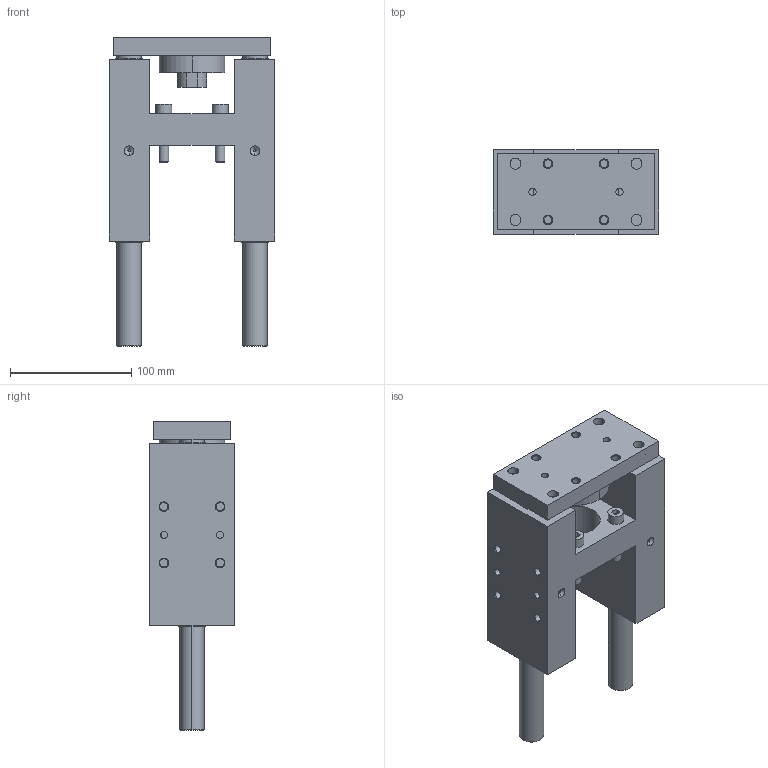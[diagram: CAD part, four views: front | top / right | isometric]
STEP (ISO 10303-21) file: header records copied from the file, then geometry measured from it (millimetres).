
FILE_DESCRIPTION((''),'2;1');
FILE_NAME('0821401240_ASM','2015-03-20T',('mla1hc'),(''),'PRO/ENGINEER BY PARAMETRIC TECHNOLOGY CORPORATION, 2011490','PRO/ENGINEER BY PARAMETRIC TECHNOLOGY CORPORATION, 2011490','');
FILE_SCHEMA(('AUTOMOTIVE_DESIGN_CC2 { 1 2 10303 214 -1 1 5 2 }'));
Length unit declared in the file: millimetre
Products named in the file (3): 0821401240-A; 0821401240-B; 0821401240_ASM
Assembly tree (2 placements, depth 2):
  0821401240_ASM
    0821401240-A
    0821401240-B
Bounding box: 137 x 70 x 255 mm (x, y, z)
Volume: 995427.4 mm3; surface area: 168548.7 mm2
Topology: 2 solids, 2 shells, 259 faces, 582 edges, 370 vertices
Faces by surface type: cylinder 108, plane 93, cone 58
Entity records: 7446 total; most frequent: DIRECTION 1386, CARTESIAN_POINT 1290, ORIENTED_EDGE 1164, EDGE_CURVE 582, AXIS2_PLACEMENT_3D 544, VERTEX_POINT 370, EDGE_LOOP 332, VECTOR 298
